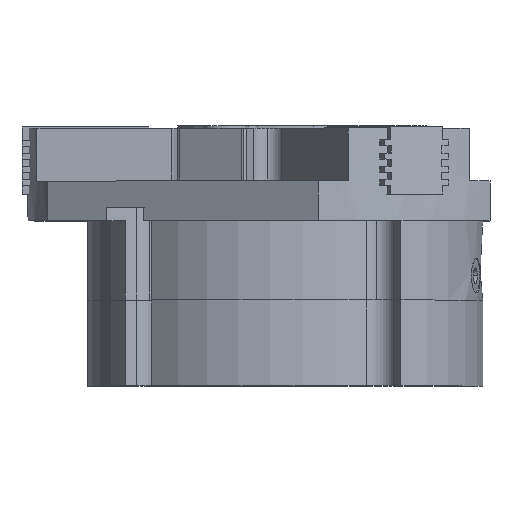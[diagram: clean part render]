
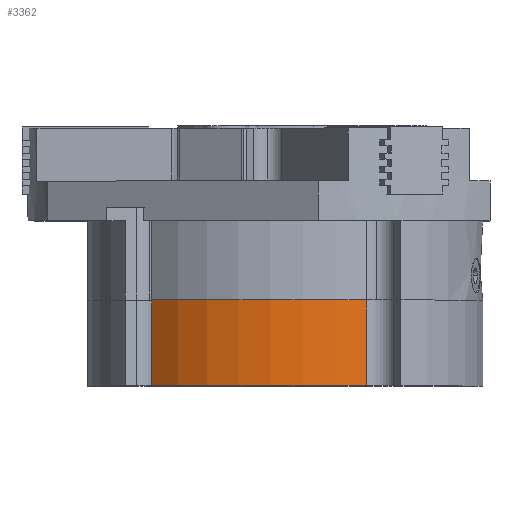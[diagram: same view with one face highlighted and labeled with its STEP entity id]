
A CAD part, top view. The second image highlights one B-rep face of the part: STEP entity #3362.
In plain terms, the highlighted cylindrical face has radius 150 mm (diameter 300 mm), a partial arc.
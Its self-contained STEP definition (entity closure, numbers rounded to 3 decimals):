
#64 = ORIENTED_EDGE ( 'NONE', *, *, #13494, .T. ) ;
#159 = VERTEX_POINT ( 'NONE', #9446 ) ;
#343 = CARTESIAN_POINT ( 'NONE',  ( 0., 65., 0. ) ) ;
#471 = EDGE_CURVE ( 'NONE', #13260, #159, #1840, .T. ) ;
#692 = FACE_OUTER_BOUND ( 'NONE', #15660, .T. ) ;
#1840 = CIRCLE ( 'NONE', #13925, 150. ) ;
#2717 = LINE ( 'NONE', #13519, #6736 ) ;
#2872 = CIRCLE ( 'NONE', #4164, 150. ) ;
#3362 = ADVANCED_FACE ( 'NONE', ( #692 ), #9723, .T. ) ;
#3708 = DIRECTION ( 'NONE',  ( 0., -1., 0. ) ) ;
#4164 = AXIS2_PLACEMENT_3D ( 'NONE', #14577, #3708, #12132 ) ;
#5046 = DIRECTION ( 'NONE',  ( 0., 0., -1. ) ) ;
#5254 = CARTESIAN_POINT ( 'NONE',  ( -111.014, 0., -100.876 ) ) ;
#6386 = DIRECTION ( 'NONE',  ( 0., -1., 0. ) ) ;
#6478 = CARTESIAN_POINT ( 'NONE',  ( -111.014, 65., -100.876 ) ) ;
#6736 = VECTOR ( 'NONE', #11189, 1000. ) ;
#7183 = EDGE_CURVE ( 'NONE', #9445, #13284, #2872, .T. ) ;
#7361 = CARTESIAN_POINT ( 'NONE',  ( 0., 0., 0. ) ) ;
#8676 = ORIENTED_EDGE ( 'NONE', *, *, #7183, .T. ) ;
#9445 = VERTEX_POINT ( 'NONE', #15141 ) ;
#9446 = CARTESIAN_POINT ( 'NONE',  ( -136.753, 0., 61.634 ) ) ;
#9723 = CYLINDRICAL_SURFACE ( 'NONE', #11024, 150. ) ;
#10627 = DIRECTION ( 'NONE',  ( 0., 1., 0. ) ) ;
#10825 = LINE ( 'NONE', #14196, #11014 ) ;
#11014 = VECTOR ( 'NONE', #10627, 1000. ) ;
#11024 = AXIS2_PLACEMENT_3D ( 'NONE', #343, #6386, #5046 ) ;
#11189 = DIRECTION ( 'NONE',  ( 0., -1., 0. ) ) ;
#11820 = ORIENTED_EDGE ( 'NONE', *, *, #13203, .T. ) ;
#11956 = ORIENTED_EDGE ( 'NONE', *, *, #471, .T. ) ;
#12132 = DIRECTION ( 'NONE',  ( 0., 0., -1. ) ) ;
#12573 = DIRECTION ( 'NONE',  ( 0., 1., 0. ) ) ;
#13203 = EDGE_CURVE ( 'NONE', #13284, #13260, #2717, .T. ) ;
#13260 = VERTEX_POINT ( 'NONE', #5254 ) ;
#13284 = VERTEX_POINT ( 'NONE', #6478 ) ;
#13494 = EDGE_CURVE ( 'NONE', #159, #9445, #10825, .T. ) ;
#13519 = CARTESIAN_POINT ( 'NONE',  ( -111.014, 65., -100.876 ) ) ;
#13925 = AXIS2_PLACEMENT_3D ( 'NONE', #7361, #12573, #15018 ) ;
#14196 = CARTESIAN_POINT ( 'NONE',  ( -136.753, -11., 61.634 ) ) ;
#14577 = CARTESIAN_POINT ( 'NONE',  ( 0., 65., 0. ) ) ;
#15018 = DIRECTION ( 'NONE',  ( 0., 0., -1. ) ) ;
#15141 = CARTESIAN_POINT ( 'NONE',  ( -136.753, 65., 61.634 ) ) ;
#15660 = EDGE_LOOP ( 'NONE', ( #11956, #64, #8676, #11820 ) ) ;
